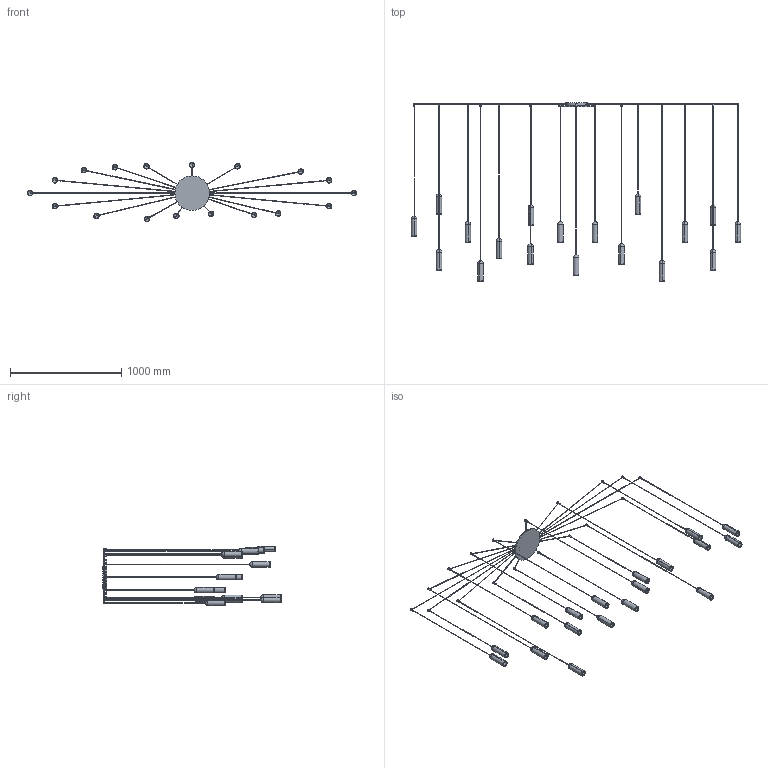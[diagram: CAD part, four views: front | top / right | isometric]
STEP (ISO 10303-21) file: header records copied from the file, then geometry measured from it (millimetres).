
FILE_DESCRIPTION (( 'STEP AP203' ), '1' );
FILE_NAME ('NANA6-00-NANUM_18 sospensione.STEP', '2025-05-05T14:40:33', ( '' ), ( '' ), 'SwSTEP 2.0', 'SolidWorks 2022', '' );
FILE_SCHEMA (( 'CONFIG_CONTROL_DESIGN' ));
Length unit declared in the file: millimetre
Products named in the file (11): NANUM_LAMPADA SINGOLA_H=1800; NANUM_LAMPADA SINGOLA_H=1750; NANUM_LAMPADA SINGOLA_H=1900; NANUM_LAMPADA SINGOLA_H=2000; NANUM_LAMPADA SINGOLA_H=1500; NANUM_LAMPADA SINGOLA_H=1550; NANA6-00-NANUM_18 sospensione; NANUM_LAMPADA SINGOLA_H=1600; Nanum_Rosone_NANUM_18 sospensione (4600)<A macchina>; NANUM_LAMPADA SINGOLA_H=1400; NANUM_LAMPADA SINGOLA_H=1450
Assembly tree (19 placements, depth 2):
  NANA6-00-NANUM_18 sospensione
    Nanum_Rosone_NANUM_18 sospensione (4600)<A macchina>
    NANUM_LAMPADA SINGOLA_H=1800
    NANUM_LAMPADA SINGOLA_H=2000  x2
    NANUM_LAMPADA SINGOLA_H=1500  x2
    NANUM_LAMPADA SINGOLA_H=1750  x5
    NANUM_LAMPADA SINGOLA_H=1600
    NANUM_LAMPADA SINGOLA_H=1550  x2
    NANUM_LAMPADA SINGOLA_H=1450
    NANUM_LAMPADA SINGOLA_H=1900  x2
    NANUM_LAMPADA SINGOLA_H=1400  x2
Bounding box: 2959.5 x 1604.5 x 533.5 mm (x, y, z)
Volume: 3264081.7 mm3; surface area: 1721021.1 mm2
Topology: 55 solids, 55 shells, 672 faces, 1465 edges, 832 vertices
Faces by surface type: cylinder 345, plane 147, cone 72, sphere 72, torus 36
Entity records: 11416 total; most frequent: CARTESIAN_POINT 2328, DIRECTION 1804, ORIENTED_EDGE 1418, AXIS2_PLACEMENT_3D 792, EDGE_CURVE 709, VERTEX_POINT 436, EDGE_LOOP 421, CIRCLE 386
